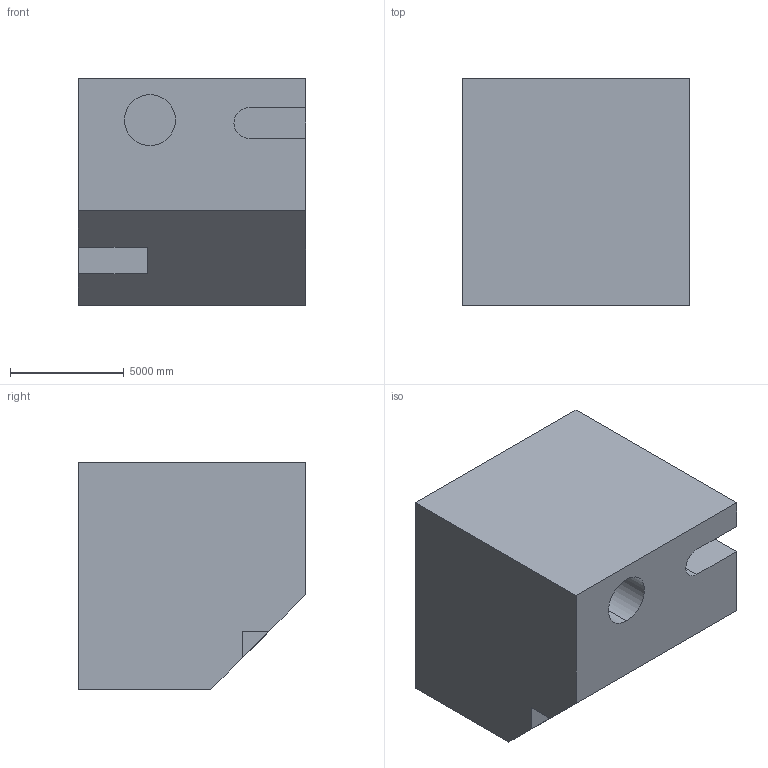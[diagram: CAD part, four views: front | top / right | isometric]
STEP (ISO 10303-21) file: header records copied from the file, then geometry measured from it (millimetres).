
FILE_DESCRIPTION (( 'STEP AP203' ), '1' );
FILE_NAME ('1341.STEP', '2022-08-18T13:52:26', ( 'user' ), ( '' ), 'SwSTEP 2.0', 'SolidWorks 2021', '' );
FILE_SCHEMA (( 'CONFIG_CONTROL_DESIGN' ));
Length unit declared in the file: centimetre
Products named in the file (1): 1341
Bounding box: 10000 x 10000 x 10000 mm (x, y, z)
Volume: 876364706535.3 mm3; surface area: 615780939 mm2
Topology: 1 solids, 1 shells, 17 faces, 42 edges, 28 vertices
Faces by surface type: plane 14, cylinder 3
Entity records: 579 total; most frequent: CARTESIAN_POINT 88, ORIENTED_EDGE 84, DIRECTION 84, EDGE_CURVE 42, VECTOR 36, LINE 36, VERTEX_POINT 28, AXIS2_PLACEMENT_3D 24
